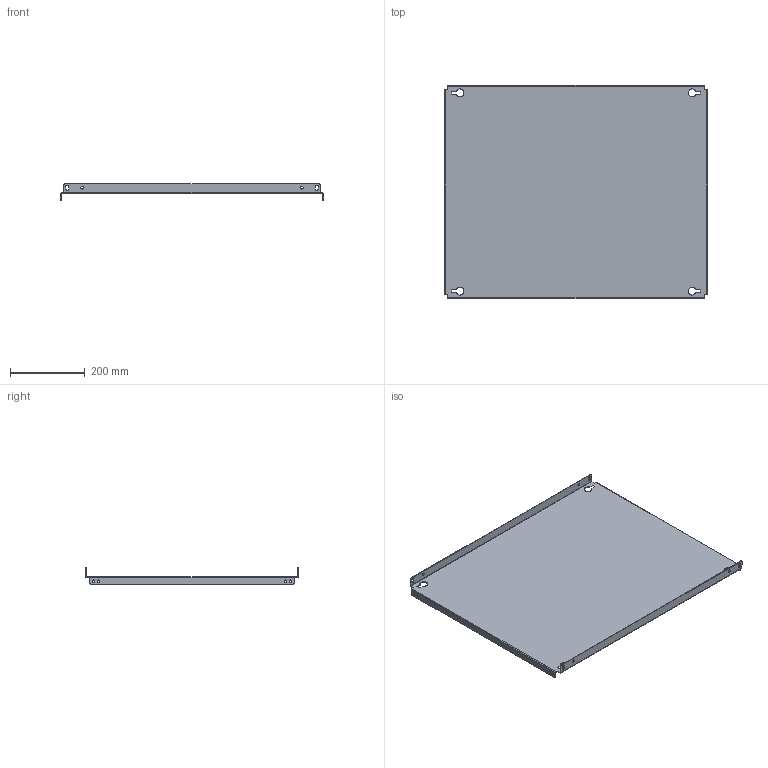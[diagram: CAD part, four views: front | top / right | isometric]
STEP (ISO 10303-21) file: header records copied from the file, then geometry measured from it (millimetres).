
FILE_DESCRIPTION (( 'STEP AP203' ), '1' );
FILE_NAME ('R5PPS6008.STEP', '2021-12-20T06:58:05', ( '' ), ( '' ), 'SwSTEP 2.0', 'SolidWorks 2020', '' );
FILE_SCHEMA (( 'CONFIG_CONTROL_DESIGN' ));
Length unit declared in the file: millimetre
Products named in the file (1): R5PPS6008
Bounding box: 700 x 569 x 43 mm (x, y, z)
Volume: 889965 mm3; surface area: 896868 mm2
Topology: 1 solids, 1 shells, 132 faces, 358 edges, 228 vertices
Faces by surface type: cylinder 74, plane 58
Entity records: 4331 total; most frequent: DIRECTION 772, CARTESIAN_POINT 719, ORIENTED_EDGE 716, EDGE_CURVE 358, AXIS2_PLACEMENT_3D 281, VERTEX_POINT 228, LINE 210, VECTOR 210
